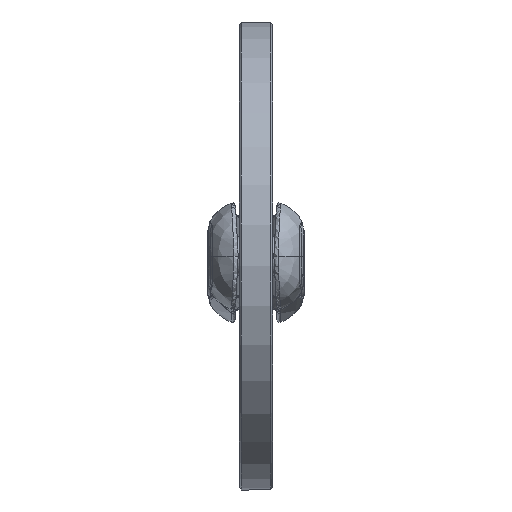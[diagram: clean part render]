
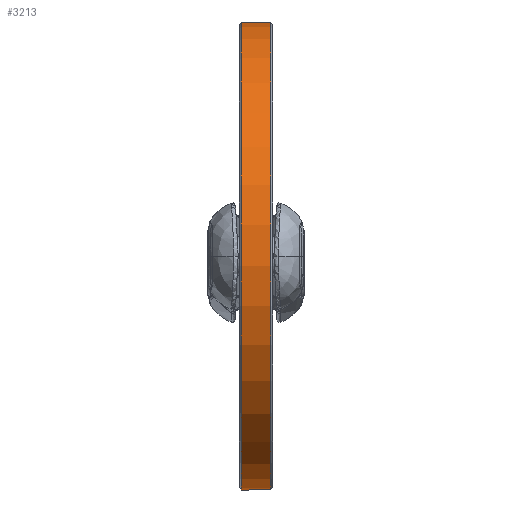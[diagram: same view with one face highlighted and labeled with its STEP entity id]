
A CAD part, top view. The second image highlights one B-rep face of the part: STEP entity #3213.
In plain terms, the highlighted cylindrical face has radius 695 mm (diameter 1390 mm), a full revolution.
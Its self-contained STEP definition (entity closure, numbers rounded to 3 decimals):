
#648=CYLINDRICAL_SURFACE($,#3571,695.);
#775=FACE_BOUND($,#1321,.T.);
#991=FACE_OUTER_BOUND($,#1320,.T.);
#1320=EDGE_LOOP($,(#2943));
#1321=EDGE_LOOP($,(#2944));
#1512=CIRCLE($,#3570,695.);
#1513=CIRCLE($,#3572,695.);
#1791=VERTEX_POINT($,#14029);
#1792=VERTEX_POINT($,#14032);
#2180=EDGE_CURVE($,#1791,#1791,#1512,.T.);
#2181=EDGE_CURVE($,#1792,#1792,#1513,.T.);
#2943=ORIENTED_EDGE($,*,*,#2181,.F.);
#2944=ORIENTED_EDGE($,*,*,#2180,.F.);
#3213=ADVANCED_FACE($,(#991,#775),#648,.T.);
#3570=AXIS2_PLACEMENT_3D($,#14030,#4307,#4308);
#3571=AXIS2_PLACEMENT_3D($,#14031,#4309,#4310);
#3572=AXIS2_PLACEMENT_3D($,#14033,#4311,#4312);
#4307=DIRECTION('center_axis',(0.,0.,-1.));
#4308=DIRECTION('ref_axis',(-1.,0.,0.));
#4309=DIRECTION('center_axis',(0.,0.,1.));
#4310=DIRECTION('ref_axis',(-1.,0.,0.));
#4311=DIRECTION('center_axis',(0.,0.,1.));
#4312=DIRECTION('ref_axis',(-1.,0.,0.));
#14029=CARTESIAN_POINT('',(695.,0.,-44.));
#14030=CARTESIAN_POINT('Origin',(0.,0.,-44.));
#14031=CARTESIAN_POINT('Origin',(0.,0.,0.));
#14032=CARTESIAN_POINT('',(695.,0.,44.));
#14033=CARTESIAN_POINT('Origin',(0.,0.,44.));
